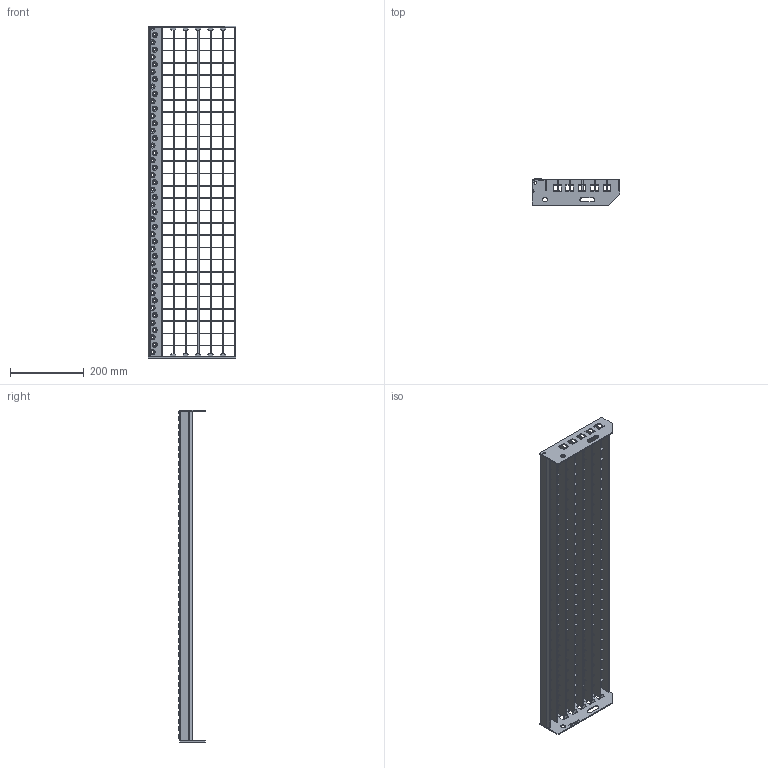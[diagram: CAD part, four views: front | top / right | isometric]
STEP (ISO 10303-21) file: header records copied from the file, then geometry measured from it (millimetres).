
FILE_DESCRIPTION(/* description */ ('','CAx-IF Rec.Pracs.---Representation and Presentation of Product Manufacturing Information (PMI)---3.8---2014-02-18'),/* implementation_level */ '2;1');
FILE_NAME(/* name */ 'C:\Users\phaverkotte\Desktop\Lager STEP\P-Stufen\PX3 330-33-3\PX3 330-33-3 900mm x 240mm.stp',/* time_stamp */ '2018-03-24T10:10:04+01:00',/* author */ ('phaverkotte'),/* organization */ (''),/* preprocessor_version */ 'ST-DEVELOPER v16.13',/* originating_system */ 'Autodesk Inventor 2018',/* authorisation */ '');
FILE_SCHEMA (('AP242_MANAGED_MODEL_BASED_3D_ENGINEERING_MIM_LF { 1 0 10303 442 1 1 4 }'));
Length unit declared in the file: millimetre
Products named in the file (8): Schodišťový stupeň přím
ý lisovaný; Seitenplatte ausgeklinkt links; Seitenplatte 240 ausgeklinkt extern rechts; Schod nášlap; P Rošt schodu; Querstab; P Nosný pás; Hinteres Flach
Assembly tree (37 placements, depth 3):
  Schodišťový stupeň přím
ý lisovaný
    Seitenplatte ausgeklinkt links
    Seitenplatte 240 ausgeklinkt extern rechts
    Schod nášlap
    P Rošt schodu
      Querstab  x26
      P Nosný pás  x6
      Hinteres Flach
Bounding box: 237.98 x 72.75 x 900 mm (x, y, z)
Volume: 829007.9 mm3; surface area: 703441.9 mm2
Topology: 36 solids, 36 shells, 2926 faces, 8408 edges, 5571 vertices
Faces by surface type: plane 1848, cylinder 878, cone 135, torus 45, bspline 20
Full cylindrical faces by diameter (mm): 8 x2, 13 x2
Entity records: 30042 total; most frequent: CARTESIAN_POINT 8042, DIRECTION 4443, ORIENTED_EDGE 4248, EDGE_CURVE 2124, LINE 1485, VECTOR 1485, AXIS2_PLACEMENT_3D 1479, VERTEX_POINT 1472
